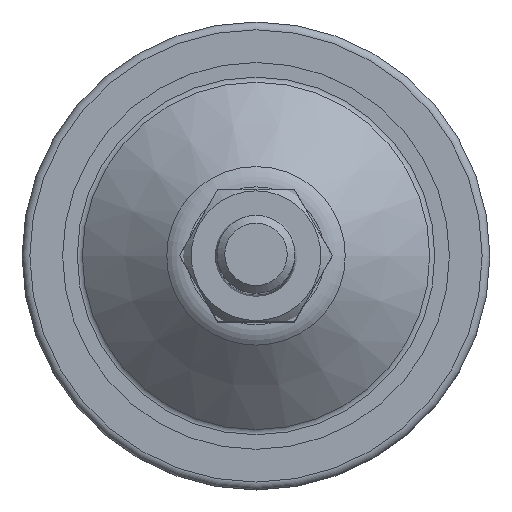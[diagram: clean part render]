
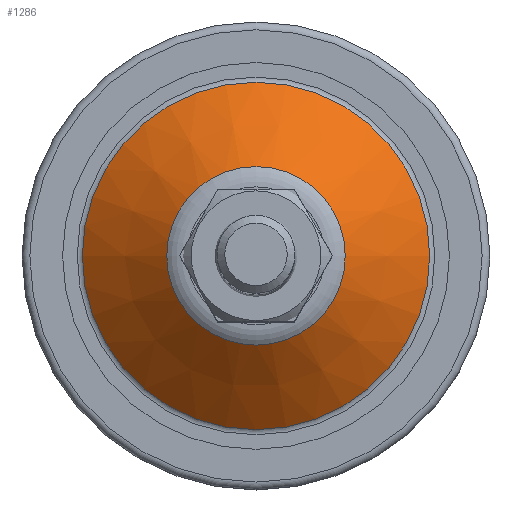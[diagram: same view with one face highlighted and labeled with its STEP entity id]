
A CAD part, top view. The second image highlights one B-rep face of the part: STEP entity #1286.
In plain terms, the highlighted conical face has half-angle 49.383 degrees and reference radius 16.86 mm.
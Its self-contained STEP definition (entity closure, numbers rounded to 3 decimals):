
#49=CONICAL_SURFACE('',#1428,16.86,49.383);
#248=FACE_BOUND('',#451,.T.);
#339=FACE_OUTER_BOUND('',#450,.T.);
#450=EDGE_LOOP('',(#1094));
#451=EDGE_LOOP('',(#1095));
#579=CIRCLE('',#1414,11.447);
#587=CIRCLE('',#1427,22.273);
#691=VERTEX_POINT('',#2139);
#699=VERTEX_POINT('',#2160);
#841=EDGE_CURVE('',#691,#691,#579,.T.);
#849=EDGE_CURVE('',#699,#699,#587,.T.);
#1094=ORIENTED_EDGE('',*,*,#841,.T.);
#1095=ORIENTED_EDGE('',*,*,#849,.F.);
#1286=ADVANCED_FACE('',(#339,#248),#49,.T.);
#1414=AXIS2_PLACEMENT_3D('',#2140,#1711,#1712);
#1427=AXIS2_PLACEMENT_3D('',#2161,#1737,#1738);
#1428=AXIS2_PLACEMENT_3D('',#2162,#1739,#1740);
#1711=DIRECTION('center_axis',(0.,0.,-1.));
#1712=DIRECTION('ref_axis',(1.,0.,0.));
#1737=DIRECTION('center_axis',(0.,0.,-1.));
#1738=DIRECTION('ref_axis',(1.,0.,0.));
#1739=DIRECTION('center_axis',(0.,0.,-1.));
#1740=DIRECTION('ref_axis',(1.,0.,0.));
#2139=CARTESIAN_POINT('',(-11.447,0.,17.025));
#2140=CARTESIAN_POINT('Origin',(0.,0.,17.025));
#2160=CARTESIAN_POINT('',(-22.273,0.,7.741));
#2161=CARTESIAN_POINT('Origin',(0.,0.,7.741));
#2162=CARTESIAN_POINT('Origin',(0.,0.,12.383));
